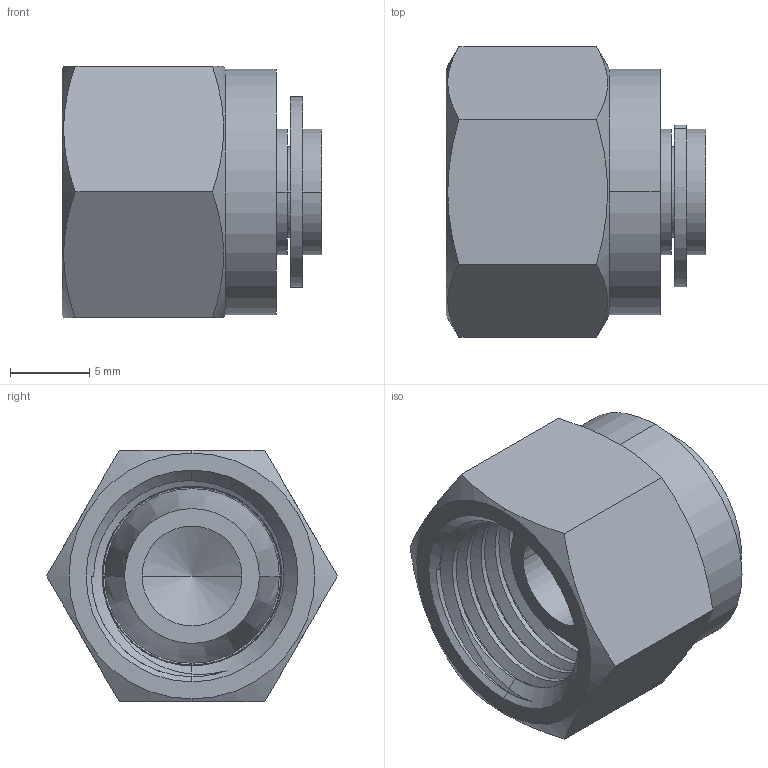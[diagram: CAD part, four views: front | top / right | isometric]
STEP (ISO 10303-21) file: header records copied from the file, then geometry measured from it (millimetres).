
FILE_DESCRIPTION (( 'STEP AP203' ), '1' );
FILE_NAME ('DBA05 SS.STEP', '2009-09-08T04:41:50', ( ' ' ), ( '' ), 'SwSTEP 2.0', 'SolidWorks 2008', '' );
FILE_SCHEMA (( 'CONFIG_CONTROL_DESIGN' ));
Length unit declared in the file: millimetre
Products named in the file (1): DBA05 SS
Bounding box: 16.39 x 18.34 x 15.88 mm (x, y, z)
Volume: 2129 mm3; surface area: 2131.1 mm2
Topology: 2 solids, 2 shells, 79 faces, 201 edges, 130 vertices
Faces by surface type: cylinder 40, plane 23, cone 13, bspline 3
Entity records: 3274 total; most frequent: CARTESIAN_POINT 1368, ORIENTED_EDGE 398, DIRECTION 371, EDGE_CURVE 199, AXIS2_PLACEMENT_3D 145, VERTEX_POINT 130, EDGE_LOOP 85, VECTOR 81
